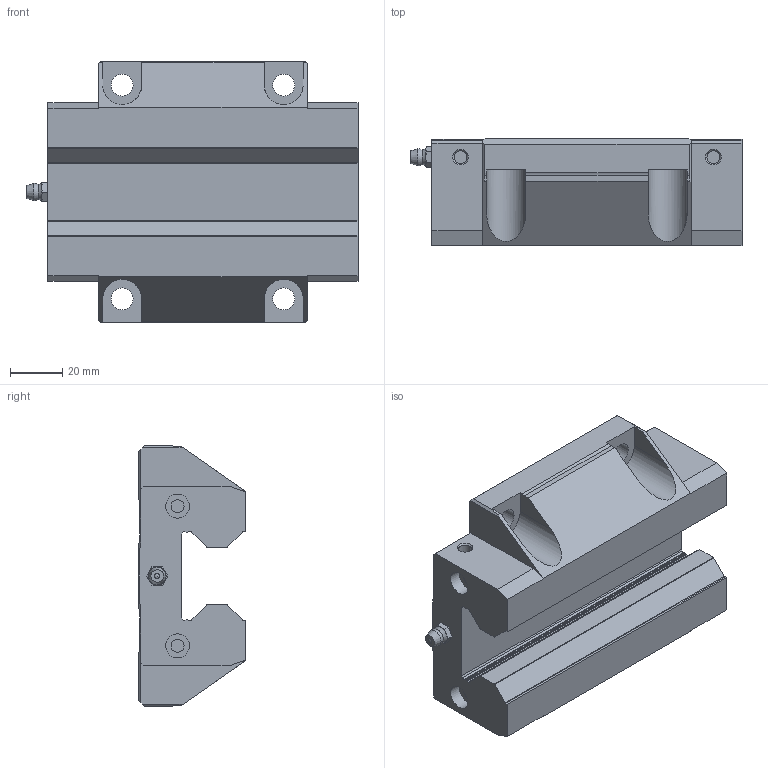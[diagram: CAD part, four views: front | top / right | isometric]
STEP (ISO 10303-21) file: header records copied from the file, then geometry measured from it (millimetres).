
FILE_DESCRIPTION(/* description */ ('STEP AP214'),/* implementation_level */ '2;1');
FILE_NAME(/* name */ 'ERG35P6CC1N0______CAD_NO_(A-MT61)',/* time_stamp */ '2026-05-18T11:03:13+02:00',/* author */ ('License CC BY-ND 4.0'),/* organization */ ('CADENAS'),/* preprocessor_version */ 'ST-DEVELOPER v20',/* originating_system */ 'PARTsolutions',/* authorisation */ ' ');
FILE_SCHEMA (('AUTOMOTIVE_DESIGN {1 0 10303 214 3 1 1}'));
Length unit declared in the file: millimetre
Products named in the file (3): ERG35P6CC1N0______CAD_NO_(A-MT61); ERG35C01 Slider; hsr_ftht_A-M6F_grease_nipple_joint
Assembly tree (2 placements, depth 2):
  ERG35P6CC1N0______CAD_NO_(A-MT61)
    ERG35C01 Slider
    hsr_ftht_A-M6F_grease_nipple_joint
Bounding box: 127.41 x 41 x 100 mm (x, y, z)
Volume: 298358.3 mm3; surface area: 47498.7 mm2
Topology: 2 solids, 2 shells, 184 faces, 469 edges, 308 vertices
Faces by surface type: plane 109, cylinder 51, cone 21, sphere 2, torus 1
Full cylindrical faces by diameter (mm): 4.917 x6, 5 x4, 6 x1, 8.376 x6, 9.2 x4, 10.2 x2
Entity records: 5423 total; most frequent: CARTESIAN_POINT 989, DIRECTION 900, ORIENTED_EDGE 848, EDGE_CURVE 424, AXIS2_PLACEMENT_3D 313, VERTEX_POINT 304, LINE 274, VECTOR 274
